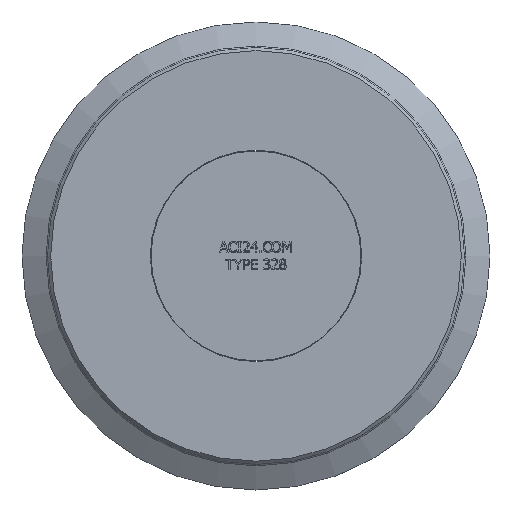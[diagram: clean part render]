
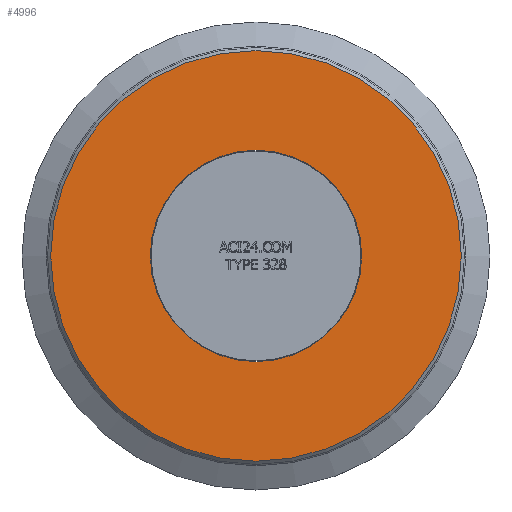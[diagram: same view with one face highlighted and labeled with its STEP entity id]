
A CAD part, top view. The second image highlights one B-rep face of the part: STEP entity #4996.
In plain terms, the highlighted planar face has unit normal (0, 0, 1).
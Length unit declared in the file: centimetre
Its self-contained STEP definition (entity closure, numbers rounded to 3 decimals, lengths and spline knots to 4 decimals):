
#27=CIRCLE('',#5157,6.8);
#29=CIRCLE('',#5161,3.5);
#85=FACE_BOUND('',#992,.T.);
#697=FACE_OUTER_BOUND('',#991,.T.);
#991=EDGE_LOOP('',(#4569));
#992=EDGE_LOOP('',(#4570));
#2430=VERTEX_POINT('',#8913);
#2432=VERTEX_POINT('',#8919);
#3146=EDGE_CURVE('',#2430,#2430,#27,.T.);
#3148=EDGE_CURVE('',#2432,#2432,#29,.T.);
#4569=ORIENTED_EDGE('',*,*,#3146,.F.);
#4570=ORIENTED_EDGE('',*,*,#3148,.F.);
#4732=PLANE('',#5160);
#4996=ADVANCED_FACE('',(#697,#85),#4732,.T.);
#5157=AXIS2_PLACEMENT_3D('',#8914,#5951,#5952);
#5160=AXIS2_PLACEMENT_3D('',#8918,#5957,#5958);
#5161=AXIS2_PLACEMENT_3D('',#8920,#5959,#5960);
#5951=DIRECTION('center_axis',(0.,0.,
-1.));
#5952=DIRECTION('ref_axis',(0.,-1.,0.));
#5957=DIRECTION('center_axis',(0.,0.,
1.));
#5958=DIRECTION('ref_axis',(0.,1.,0.));
#5959=DIRECTION('center_axis',(0.,0.,
1.));
#5960=DIRECTION('ref_axis',(-1.,0.,0.));
#8913=CARTESIAN_POINT('',(0.,6.8,0.8));
#8914=CARTESIAN_POINT('Origin',(0.,0.,
0.8));
#8918=CARTESIAN_POINT('Origin',(0.,3.5,0.8));
#8919=CARTESIAN_POINT('',(0.,3.5,0.8));
#8920=CARTESIAN_POINT('Origin',(0.,0.,
0.8));
